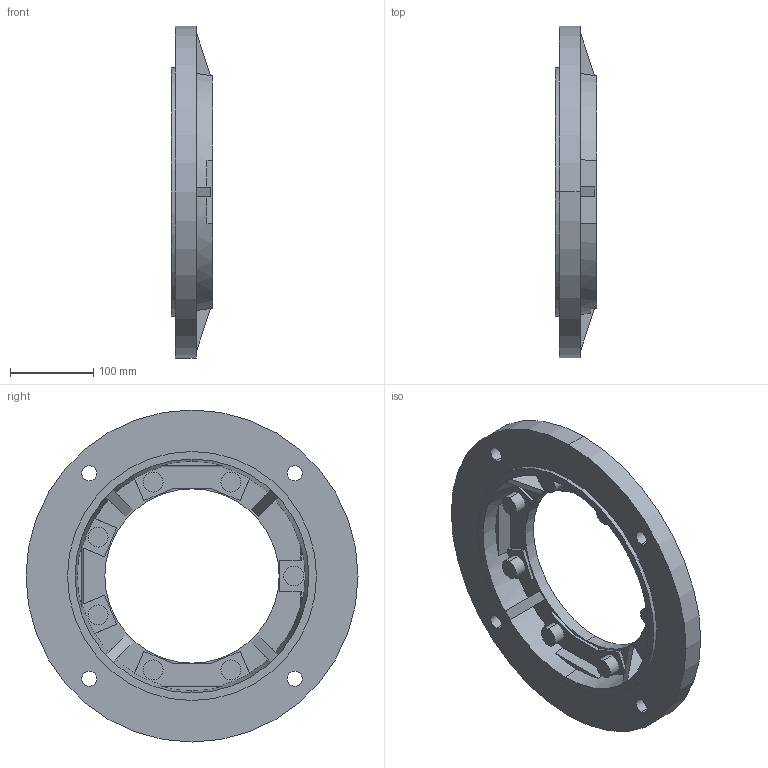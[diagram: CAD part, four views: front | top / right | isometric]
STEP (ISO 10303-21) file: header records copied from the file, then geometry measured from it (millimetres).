
FILE_DESCRIPTION(/* description */ (''),/* implementation_level */ '2;1');
FILE_NAME(/* name */ '3_FLANGIA (CAMPANA) LATERALE FC H142',/* time_stamp */ '2025-10-31T14:35:52+01:00',/* author */ (''),/* organization */ (''),/* preprocessor_version */ 'ST-DEVELOPER v19.2',/* originating_system */ 'Rhino 8.23',/* authorisation */ '');
FILE_SCHEMA (('CONFIG_CONTROL_DESIGN'));
Length unit declared in the file: millimetre
Products named in the file (2): Document; FU142FC-28
Bounding box: 50 x 400 x 400 mm (x, y, z)
Volume: 2295739.5 mm3; surface area: 289194.2 mm2
Topology: 1 solids, 1 shells, 108 faces, 296 edges, 200 vertices
Faces by surface type: plane 74, cylinder 28, bspline 6
Entity records: 4605 total; most frequent: CARTESIAN_POINT 1158, ORIENTED_EDGE 592, EDGE_CURVE 296, DIRECTION 286, B_SPLINE_CURVE_WITH_KNOTS 200, VERTEX_POINT 200, AXIS2_PLACEMENT_3D 194, EDGE_LOOP 128
